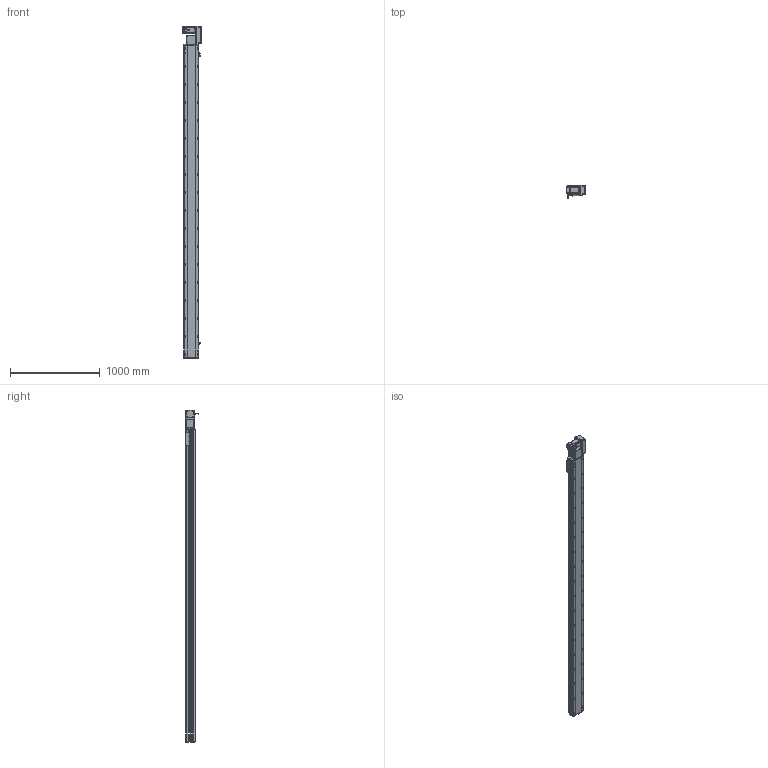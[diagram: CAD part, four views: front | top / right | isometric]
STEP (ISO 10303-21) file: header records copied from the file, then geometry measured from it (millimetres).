
FILE_DESCRIPTION (( 'STEP AP214' ), '1' );
FILE_NAME ('RTB17S-XX-3200-R-M75-C4.STEP', '2025-12-12T01:52:01', ( '' ), ( '' ), 'SwSTEP 2.0', 'SolidWorks 2018', '' );
FILE_SCHEMA (( 'AUTOMOTIVE_DESIGN' ));
Length unit declared in the file: millimetre
Products named in the file (15): RTB22S-GY-018P^RTB17S-R-々湍釱蚾饜-750W_RTB17S-XX-XX-R-M75-C4; RTB22S-GY-005P^RTB17S-R-々湍釱蚾饜-750W_RTB17S-XX-XX-R-M75-C4; RTB17-R-011菁釱^RTB17S-XX-XX-R-M75-C4; RTB17S-賑釱^RTB17S-XX-XX-R-M75-C4; RTH13-BL-012覜茼え俋离^RTB17S-賑釱_RTB17S-XX-XX-R-M75-C4; 750W萇儂^RTB17S-XX-XX-R-M75-C4; RTB17S-XX-3200-R-M75-C4; RTB17S-R-々湍釱蚾饜-750W^RTB17S-XX-XX-R-M75-C4; RTB17S-L-001-耜醱啣^RTB17S-XX-XX-R-M75-C4; RTB17S-L-014-T20-P75--々湍釱^RTB17S-R-々湍釱蚾饜-750W_RTB17S-XX-XX-R-M75-C4; EE672^RTB17S-XX-XX-R-M75-C4; RTB17S-L-004-賑釱^RTB17S-賑釱_RTB17S-XX-XX-R-M75-C4; RTB22S-GY-017P^RTB17S-R-々湍釱蚾饜-750W_RTB17S-XX-XX-R-M75-C4; RTB22S-GY-008-M75--萇儂啣^RTB17S-R-々湍釱蚾饜-750W_RTB17S-XX-XX-R-M75-C4; RTB17S-L-007奻裔^RTB17S-XX-XX-R-M75-C4
Assembly tree (17 placements, depth 3):
  RTB17S-XX-3200-R-M75-C4
    RTB17-R-011菁釱^RTB17S-XX-XX-R-M75-C4
    EE672^RTB17S-XX-XX-R-M75-C4  x3
    RTB17S-L-001-耜醱啣^RTB17S-XX-XX-R-M75-C4
    RTB17S-賑釱^RTB17S-XX-XX-R-M75-C4
      RTB17S-L-004-賑釱^RTB17S-賑釱_RTB17S-XX-XX-R-M75-C4
      RTH13-BL-012覜茼え俋离^RTB17S-賑釱_RTB17S-XX-XX-R-M75-C4
    RTB17S-L-007奻裔^RTB17S-XX-XX-R-M75-C4
    750W萇儂^RTB17S-XX-XX-R-M75-C4
    RTB17S-R-々湍釱蚾饜-750W^RTB17S-XX-XX-R-M75-C4
      RTB17S-L-014-T20-P75--々湍釱^RTB17S-R-々湍釱蚾饜-750W_RTB17S-XX-XX-R-M75-C4
      RTB22S-GY-005P^RTB17S-R-々湍釱蚾饜-750W_RTB17S-XX-XX-R-M75-C4
      RTB22S-GY-017P^RTB17S-R-々湍釱蚾饜-750W_RTB17S-XX-XX-R-M75-C4  x2
      RTB22S-GY-008-M75--萇儂啣^RTB17S-R-々湍釱蚾饜-750W_RTB17S-XX-XX-R-M75-C4
      RTB22S-GY-018P^RTB17S-R-々湍釱蚾饜-750W_RTB17S-XX-XX-R-M75-C4
Bounding box: 207.4 x 152.7 x 3699 mm (x, y, z)
Volume: 25956309.7 mm3; surface area: 4772344 mm2
Topology: 17 solids, 17 shells, 2265 faces, 6376 edges, 4130 vertices
Faces by surface type: plane 992, cylinder 857, bspline 294, cone 110, sphere 8, torus 4
Entity records: 66550 total; most frequent: CARTESIAN_POINT 19840, ORIENTED_EDGE 9596, DIRECTION 8852, EDGE_CURVE 4798, AXIS2_PLACEMENT_3D 3150, VERTEX_POINT 3134, VECTOR 2552, LINE 2552
